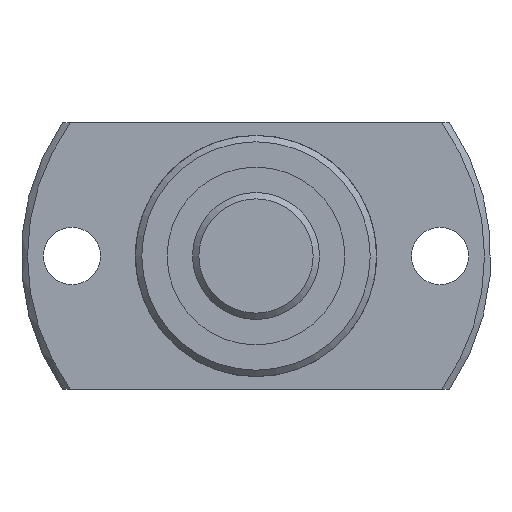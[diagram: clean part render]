
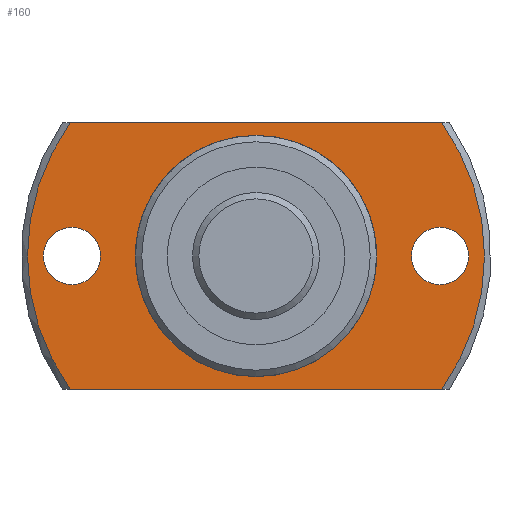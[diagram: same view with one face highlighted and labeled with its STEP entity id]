
A CAD part, left-side view. The second image highlights one B-rep face of the part: STEP entity #160.
In plain terms, the highlighted planar face has unit normal (-1, 0, 0).
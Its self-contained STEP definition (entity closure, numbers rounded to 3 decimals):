
#160 = ADVANCED_FACE( '', ( #357, #358, #359, #360 ), #361, .F. );
#357 = FACE_OUTER_BOUND( '', #627, .T. );
#358 = FACE_BOUND( '', #628, .T. );
#359 = FACE_BOUND( '', #629, .T. );
#360 = FACE_BOUND( '', #630, .T. );
#361 = PLANE( '', #631 );
#627 = EDGE_LOOP( '', ( #933, #934, #935, #936 ) );
#628 = EDGE_LOOP( '', ( #937 ) );
#629 = EDGE_LOOP( '', ( #938 ) );
#630 = EDGE_LOOP( '', ( #939 ) );
#631 = AXIS2_PLACEMENT_3D( '', #940, #941, #942 );
#933 = ORIENTED_EDGE( '', *, *, #1501, .F. );
#934 = ORIENTED_EDGE( '', *, *, #1502, .T. );
#935 = ORIENTED_EDGE( '', *, *, #1453, .F. );
#936 = ORIENTED_EDGE( '', *, *, #1503, .T. );
#937 = ORIENTED_EDGE( '', *, *, #1485, .T. );
#938 = ORIENTED_EDGE( '', *, *, #1504, .T. );
#939 = ORIENTED_EDGE( '', *, *, #1505, .T. );
#940 = CARTESIAN_POINT( '', ( 13., 9.25, 0. ) );
#941 = DIRECTION( '', ( 1., 0., 0. ) );
#942 = DIRECTION( '', ( 0., 0., -1. ) );
#1453 = EDGE_CURVE( '', #1679, #1680, #1681, .T. );
#1485 = EDGE_CURVE( '', #1735, #1735, #1736, .T. );
#1501 = EDGE_CURVE( '', #1762, #1763, #1764, .T. );
#1502 = EDGE_CURVE( '', #1762, #1680, #1765, .T. );
#1503 = EDGE_CURVE( '', #1679, #1763, #1766, .T. );
#1504 = EDGE_CURVE( '', #1767, #1767, #1768, .T. );
#1505 = EDGE_CURVE( '', #1769, #1769, #1770, .T. );
#1679 = VERTEX_POINT( '', #2015 );
#1680 = VERTEX_POINT( '', #2016 );
#1681 = CIRCLE( '', #2017, 18. );
#1735 = VERTEX_POINT( '', #2102 );
#1736 = CIRCLE( '', #2103, 2.25 );
#1762 = VERTEX_POINT( '', #2135 );
#1763 = VERTEX_POINT( '', #2136 );
#1764 = CIRCLE( '', #2137, 18. );
#1765 = LINE( '', #2138, #2139 );
#1766 = LINE( '', #2140, #2141 );
#1767 = VERTEX_POINT( '', #2142 );
#1768 = CIRCLE( '', #2143, 2.25 );
#1769 = VERTEX_POINT( '', #2144 );
#1770 = CIRCLE( '', #2145, 9.25 );
#2015 = CARTESIAN_POINT( '', ( 13., -14.62, 10.5 ) );
#2016 = CARTESIAN_POINT( '', ( 13., -14.62, -10.5 ) );
#2017 = AXIS2_PLACEMENT_3D( '', #2492, #2493, #2494 );
#2102 = CARTESIAN_POINT( '', ( 13., 14.5, -2.25 ) );
#2103 = AXIS2_PLACEMENT_3D( '', #2526, #2527, #2528 );
#2135 = CARTESIAN_POINT( '', ( 13., 14.62, -10.5 ) );
#2136 = CARTESIAN_POINT( '', ( 13., 14.62, 10.5 ) );
#2137 = AXIS2_PLACEMENT_3D( '', #2550, #2551, #2552 );
#2138 = CARTESIAN_POINT( '', ( 13., 9.25, -10.5 ) );
#2139 = VECTOR( '', #2553, 1000. );
#2140 = CARTESIAN_POINT( '', ( 13., 9.25, 10.5 ) );
#2141 = VECTOR( '', #2554, 1000. );
#2142 = CARTESIAN_POINT( '', ( 13., -14.5, -2.25 ) );
#2143 = AXIS2_PLACEMENT_3D( '', #2555, #2556, #2557 );
#2144 = CARTESIAN_POINT( '', ( 13., 0., -9.25 ) );
#2145 = AXIS2_PLACEMENT_3D( '', #2558, #2559, #2560 );
#2492 = CARTESIAN_POINT( '', ( 13., 0., 0. ) );
#2493 = DIRECTION( '', ( 1., 0., 0. ) );
#2494 = DIRECTION( '', ( 0., 0., -1. ) );
#2526 = CARTESIAN_POINT( '', ( 13., 14.5, 0. ) );
#2527 = DIRECTION( '', ( 1., 0., 0. ) );
#2528 = DIRECTION( '', ( 0., 0., -1. ) );
#2550 = CARTESIAN_POINT( '', ( 13., 0., 0. ) );
#2551 = DIRECTION( '', ( 1., 0., 0. ) );
#2552 = DIRECTION( '', ( 0., 0., -1. ) );
#2553 = DIRECTION( '', ( 0., -1., 0. ) );
#2554 = DIRECTION( '', ( 0., 1., 0. ) );
#2555 = CARTESIAN_POINT( '', ( 13., -14.5, 0. ) );
#2556 = DIRECTION( '', ( 1., 0., 0. ) );
#2557 = DIRECTION( '', ( 0., 0., -1. ) );
#2558 = CARTESIAN_POINT( '', ( 13., 0., 0. ) );
#2559 = DIRECTION( '', ( 1., 0., 0. ) );
#2560 = DIRECTION( '', ( 0., 0., -1. ) );
